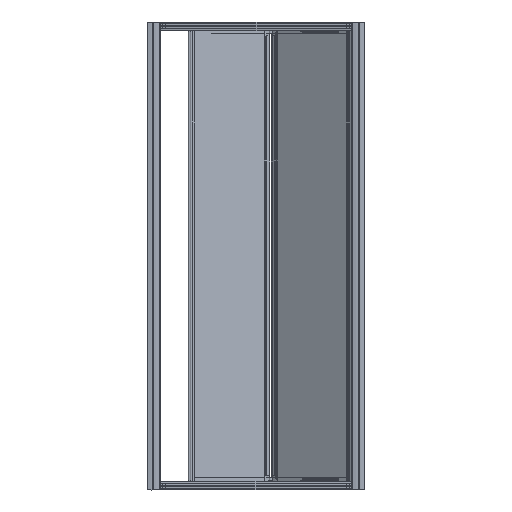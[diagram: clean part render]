
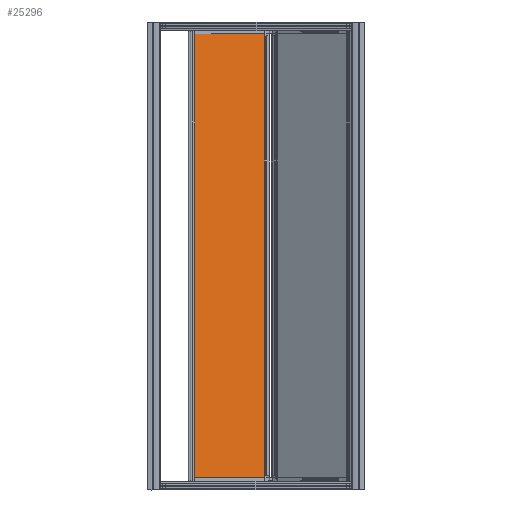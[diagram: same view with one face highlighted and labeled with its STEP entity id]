
A CAD part, left-side view. The second image highlights one B-rep face of the part: STEP entity #25296.
In plain terms, the highlighted planar face has unit normal (-0.84, -0.543, 0) as drawn and (0, -1, 0) by its records, which use the part's own axes.
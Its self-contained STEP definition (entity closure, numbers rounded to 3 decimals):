
#1103=PLANE('',#28067);
#3140=LINE('',#44476,#5197);
#3143=LINE('',#44482,#5200);
#3144=LINE('',#44484,#5201);
#3145=LINE('',#44485,#5202);
#5197=VECTOR('',#35598,1771.);
#5200=VECTOR('',#35603,344.5);
#5201=VECTOR('',#35604,1771.);
#5202=VECTOR('',#35605,344.5);
#7139=FACE_OUTER_BOUND('',#8673,.T.);
#8673=EDGE_LOOP('',(#23121,#23122,#23123,#23124));
#12470=VERTEX_POINT('',#44473);
#12471=VERTEX_POINT('',#44475);
#12473=VERTEX_POINT('',#44481);
#12474=VERTEX_POINT('',#44483);
#16038=EDGE_CURVE('',#12471,#12470,#3140,.T.);
#16041=EDGE_CURVE('',#12470,#12473,#3143,.T.);
#16042=EDGE_CURVE('',#12474,#12473,#3144,.T.);
#16043=EDGE_CURVE('',#12471,#12474,#3145,.T.);
#23121=ORIENTED_EDGE('',*,*,#16041,.T.);
#23122=ORIENTED_EDGE('',*,*,#16042,.F.);
#23123=ORIENTED_EDGE('',*,*,#16043,.F.);
#23124=ORIENTED_EDGE('',*,*,#16038,.T.);
#25296=ADVANCED_FACE('',(#7139),#1103,.T.);
#28067=AXIS2_PLACEMENT_3D('',#44480,#35601,#35602);
#35598=DIRECTION('',(0.,0.,1.));
#35601=DIRECTION('center_axis',(0.,-1.,0.));
#35602=DIRECTION('ref_axis',(0.,0.,-1.));
#35603=DIRECTION('',(-1.,0.,0.));
#35604=DIRECTION('',(0.,0.,1.));
#35605=DIRECTION('',(-1.,0.,0.));
#44473=CARTESIAN_POINT('',(315.264,7.431,1771.));
#44475=CARTESIAN_POINT('',(315.264,7.431,0.));
#44476=CARTESIAN_POINT('',(315.264,7.431,0.));
#44480=CARTESIAN_POINT('Origin',(315.264,7.431,0.));
#44481=CARTESIAN_POINT('',(-29.236,7.431,1771.));
#44482=CARTESIAN_POINT('',(315.264,7.431,1771.));
#44483=CARTESIAN_POINT('',(-29.236,7.431,0.));
#44484=CARTESIAN_POINT('',(-29.236,7.431,0.));
#44485=CARTESIAN_POINT('',(315.264,7.431,0.));
